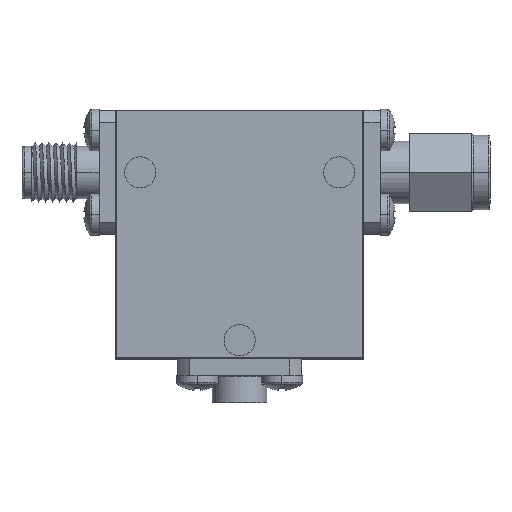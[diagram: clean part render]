
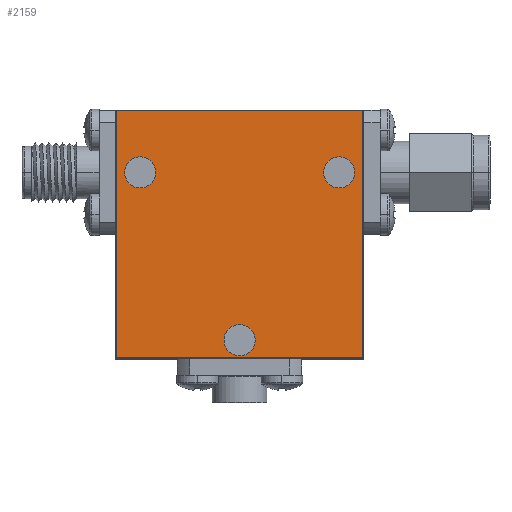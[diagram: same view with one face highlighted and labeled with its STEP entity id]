
A CAD part, top view. The second image highlights one B-rep face of the part: STEP entity #2159.
In plain terms, the highlighted planar face has unit normal (0, 0, 1).
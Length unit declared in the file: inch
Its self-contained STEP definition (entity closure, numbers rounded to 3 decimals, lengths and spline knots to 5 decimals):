
#77 = DIRECTION ( 'NONE',  ( 1., 0., 0. ) ) ;
#127 = FACE_BOUND ( 'NONE', #3239, .T. ) ;
#162 = ORIENTED_EDGE ( 'NONE', *, *, #5141, .T. ) ;
#182 = CARTESIAN_POINT ( 'NONE',  ( -0.495, -0.4975, 0.504 ) ) ;
#235 = CARTESIAN_POINT ( 'NONE',  ( 0.4625, 0.2475, 0.504 ) ) ;
#314 = CARTESIAN_POINT ( 'NONE',  ( -0.4, 0.2475, 0.504 ) ) ;
#347 = CARTESIAN_POINT ( 'NONE',  ( 0.0625, -0.4275, 0.504 ) ) ;
#349 = VERTEX_POINT ( 'NONE', #3730 ) ;
#365 = AXIS2_PLACEMENT_3D ( 'NONE', #314, #5557, #4493 ) ;
#406 = ORIENTED_EDGE ( 'NONE', *, *, #2234, .F. ) ;
#470 = LINE ( 'NONE', #5106, #5782 ) ;
#482 = DIRECTION ( 'NONE',  ( 0., 0., -1. ) ) ;
#489 = LINE ( 'NONE', #5191, #1797 ) ;
#583 = CARTESIAN_POINT ( 'NONE',  ( -0.3375, 0.2475, 0.504 ) ) ;
#623 = AXIS2_PLACEMENT_3D ( 'NONE', #6156, #1566, #4078 ) ;
#679 = VERTEX_POINT ( 'NONE', #3465 ) ;
#758 = VERTEX_POINT ( 'NONE', #3026 ) ;
#834 = DIRECTION ( 'NONE',  ( 0., 0., 1. ) ) ;
#976 = CARTESIAN_POINT ( 'NONE',  ( -0.4, 0.2475, 0.504 ) ) ;
#1080 = VERTEX_POINT ( 'NONE', #6287 ) ;
#1091 = CARTESIAN_POINT ( 'NONE',  ( 0.495, -0.4975, 0.504 ) ) ;
#1123 = CARTESIAN_POINT ( 'NONE',  ( 0.4, 0.2475, 0.504 ) ) ;
#1239 = FACE_BOUND ( 'NONE', #4189, .T. ) ;
#1383 = CARTESIAN_POINT ( 'NONE',  ( -0.495, 0.4975, 0.504 ) ) ;
#1400 = ORIENTED_EDGE ( 'NONE', *, *, #3500, .T. ) ;
#1515 = DIRECTION ( 'NONE',  ( 0., 0., 1. ) ) ;
#1535 = ORIENTED_EDGE ( 'NONE', *, *, #3852, .T. ) ;
#1556 = FACE_BOUND ( 'NONE', #1712, .T. ) ;
#1566 = DIRECTION ( 'NONE',  ( 0., 0., 1. ) ) ;
#1712 = EDGE_LOOP ( 'NONE', ( #2477, #4350 ) ) ;
#1724 = VERTEX_POINT ( 'NONE', #583 ) ;
#1797 = VECTOR ( 'NONE', #77, 39.37008 ) ;
#1805 = DIRECTION ( 'NONE',  ( 1., 0., 0. ) ) ;
#1883 = EDGE_CURVE ( 'NONE', #4935, #2522, #5380, .T. ) ;
#1999 = AXIS2_PLACEMENT_3D ( 'NONE', #4849, #3847, #1805 ) ;
#2042 = DIRECTION ( 'NONE',  ( 0., 1., 0. ) ) ;
#2159 = ADVANCED_FACE ( 'NONE', ( #127, #1556, #1239, #5655 ), #6603, .F. ) ;
#2197 = EDGE_CURVE ( 'NONE', #1080, #4686, #5163, .T. ) ;
#2234 = EDGE_CURVE ( 'NONE', #2522, #4935, #4349, .T. ) ;
#2251 = CIRCLE ( 'NONE', #365, 0.0625 ) ;
#2310 = EDGE_LOOP ( 'NONE', ( #162, #1535, #1400, #2344 ) ) ;
#2311 = ORIENTED_EDGE ( 'NONE', *, *, #5928, .F. ) ;
#2318 = DIRECTION ( 'NONE',  ( 1., 0., 0. ) ) ;
#2344 = ORIENTED_EDGE ( 'NONE', *, *, #3414, .T. ) ;
#2477 = ORIENTED_EDGE ( 'NONE', *, *, #4789, .F. ) ;
#2522 = VERTEX_POINT ( 'NONE', #3901 ) ;
#2607 = ORIENTED_EDGE ( 'NONE', *, *, #1883, .F. ) ;
#2674 = DIRECTION ( 'NONE',  ( 1., 0., 0. ) ) ;
#2960 = AXIS2_PLACEMENT_3D ( 'NONE', #976, #1515, #4103 ) ;
#3026 = CARTESIAN_POINT ( 'NONE',  ( -0.495, 0.4975, 0.504 ) ) ;
#3112 = CARTESIAN_POINT ( 'NONE',  ( 0., -0.4275, 0.504 ) ) ;
#3239 = EDGE_LOOP ( 'NONE', ( #2607, #406 ) ) ;
#3246 = EDGE_CURVE ( 'NONE', #349, #1724, #3306, .T. ) ;
#3306 = CIRCLE ( 'NONE', #2960, 0.0625 ) ;
#3366 = CARTESIAN_POINT ( 'NONE',  ( -0.495, -0.4975, 0.504 ) ) ;
#3375 = VERTEX_POINT ( 'NONE', #1091 ) ;
#3414 = EDGE_CURVE ( 'NONE', #3687, #3375, #489, .T. ) ;
#3465 = CARTESIAN_POINT ( 'NONE',  ( 0.495, 0.4975, 0.504 ) ) ;
#3500 = EDGE_CURVE ( 'NONE', #758, #3687, #5393, .T. ) ;
#3577 = DIRECTION ( 'NONE',  ( 0., 0., 1. ) ) ;
#3687 = VERTEX_POINT ( 'NONE', #3366 ) ;
#3708 = VECTOR ( 'NONE', #5307, 39.37008 ) ;
#3730 = CARTESIAN_POINT ( 'NONE',  ( -0.4625, 0.2475, 0.504 ) ) ;
#3847 = DIRECTION ( 'NONE',  ( 0., 0., 1. ) ) ;
#3852 = EDGE_CURVE ( 'NONE', #679, #758, #3995, .T. ) ;
#3901 = CARTESIAN_POINT ( 'NONE',  ( -0.0625, -0.4275, 0.504 ) ) ;
#3995 = LINE ( 'NONE', #1383, #5144 ) ;
#4047 = DIRECTION ( 'NONE',  ( -1., 0., 0. ) ) ;
#4078 = DIRECTION ( 'NONE',  ( 1., 0., 0. ) ) ;
#4103 = DIRECTION ( 'NONE',  ( 1., 0., 0. ) ) ;
#4149 = AXIS2_PLACEMENT_3D ( 'NONE', #1123, #834, #2318 ) ;
#4189 = EDGE_LOOP ( 'NONE', ( #2311, #4494 ) ) ;
#4349 = CIRCLE ( 'NONE', #4731, 0.0625 ) ;
#4350 = ORIENTED_EDGE ( 'NONE', *, *, #2197, .F. ) ;
#4493 = DIRECTION ( 'NONE',  ( 1., 0., 0. ) ) ;
#4494 = ORIENTED_EDGE ( 'NONE', *, *, #3246, .F. ) ;
#4640 = AXIS2_PLACEMENT_3D ( 'NONE', #6112, #482, #4047 ) ;
#4686 = VERTEX_POINT ( 'NONE', #235 ) ;
#4731 = AXIS2_PLACEMENT_3D ( 'NONE', #3112, #3577, #2674 ) ;
#4789 = EDGE_CURVE ( 'NONE', #4686, #1080, #4878, .T. ) ;
#4849 = CARTESIAN_POINT ( 'NONE',  ( 0., -0.4275, 0.504 ) ) ;
#4878 = CIRCLE ( 'NONE', #4149, 0.0625 ) ;
#4935 = VERTEX_POINT ( 'NONE', #347 ) ;
#5106 = CARTESIAN_POINT ( 'NONE',  ( 0.495, -0.4975, 0.504 ) ) ;
#5141 = EDGE_CURVE ( 'NONE', #3375, #679, #470, .T. ) ;
#5144 = VECTOR ( 'NONE', #6129, 39.37008 ) ;
#5163 = CIRCLE ( 'NONE', #623, 0.0625 ) ;
#5191 = CARTESIAN_POINT ( 'NONE',  ( -0.495, -0.4975, 0.504 ) ) ;
#5307 = DIRECTION ( 'NONE',  ( 0., -1., 0. ) ) ;
#5380 = CIRCLE ( 'NONE', #1999, 0.0625 ) ;
#5393 = LINE ( 'NONE', #182, #3708 ) ;
#5557 = DIRECTION ( 'NONE',  ( 0., 0., 1. ) ) ;
#5655 = FACE_OUTER_BOUND ( 'NONE', #2310, .T. ) ;
#5782 = VECTOR ( 'NONE', #2042, 39.37008 ) ;
#5928 = EDGE_CURVE ( 'NONE', #1724, #349, #2251, .T. ) ;
#6112 = CARTESIAN_POINT ( 'NONE',  ( 0., 0., 0.504 ) ) ;
#6129 = DIRECTION ( 'NONE',  ( -1., 0., 0. ) ) ;
#6156 = CARTESIAN_POINT ( 'NONE',  ( 0.4, 0.2475, 0.504 ) ) ;
#6287 = CARTESIAN_POINT ( 'NONE',  ( 0.3375, 0.2475, 0.504 ) ) ;
#6603 = PLANE ( 'NONE',  #4640 ) ;
